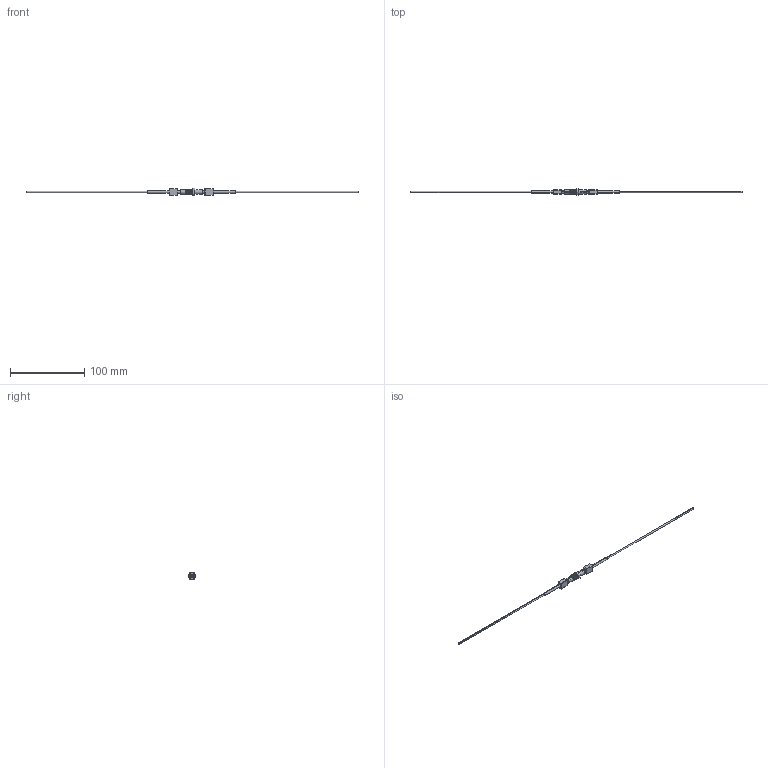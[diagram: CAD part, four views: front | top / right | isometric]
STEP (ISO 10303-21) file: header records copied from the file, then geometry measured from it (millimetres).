
FILE_DESCRIPTION (( 'STEP AP214' ), '1' );
FILE_NAME ('WEB-PRB-910-NC-HFBR-L.STEP', '2019-11-04T20:56:01', ( '' ), ( '' ), 'SwSTEP 2.0', 'SolidWorks 2017', '' );
FILE_SCHEMA (( 'AUTOMOTIVE_DESIGN' ));
Length unit declared in the file: millimetre
Products named in the file (1): WEB-PRB-910-NC-HFBR-L
Bounding box: 445.96 x 9.1 x 10.51 mm (x, y, z)
Volume: 4303.8 mm3; surface area: 7133.8 mm2
Topology: 1 solids, 4 shells, 224 faces, 593 edges, 357 vertices
Faces by surface type: cylinder 95, bspline 52, plane 43, sphere 18, cone 16
Entity records: 21773 total; most frequent: CARTESIAN_POINT 16949, ORIENTED_EDGE 1150, DIRECTION 846, EDGE_CURVE 575, VERTEX_POINT 357, AXIS2_PLACEMENT_3D 320, EDGE_LOOP 236, FACE_OUTER_BOUND 224
